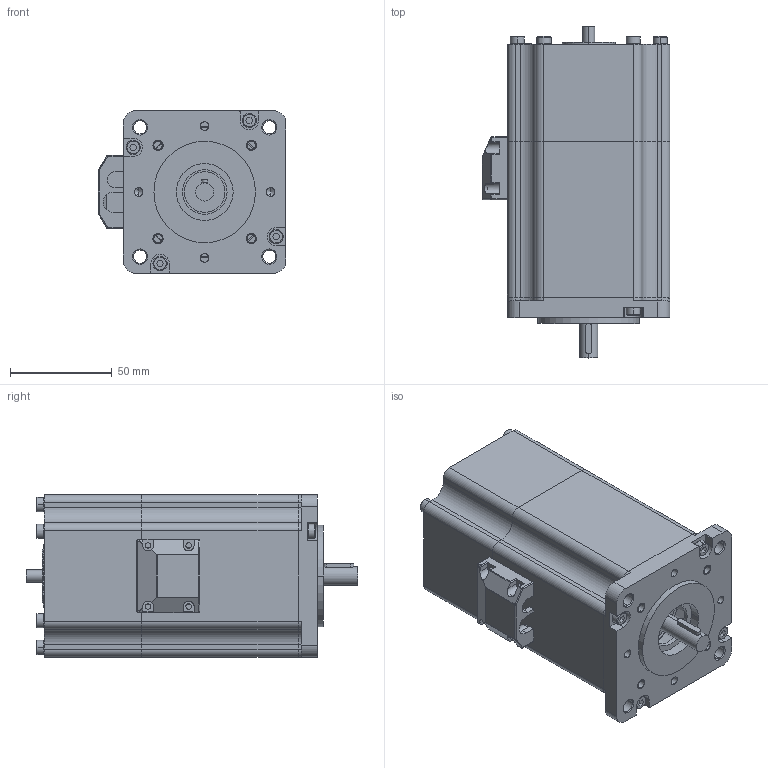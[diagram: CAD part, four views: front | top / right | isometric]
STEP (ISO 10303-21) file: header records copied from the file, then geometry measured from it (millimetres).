
FILE_DESCRIPTION (( 'STEP AP214' ), '1' );
FILE_NAME ('BL070.48.80.STEP', '2021-05-04T15:18:00', ( '' ), ( '' ), 'SwSTEP 2.0', 'SolidWorks 2020', '' );
FILE_SCHEMA (( 'AUTOMOTIVE_DESIGN' ));
Length unit declared in the file: millimetre
Products named in the file (14): 80C.stp; 0000309667.stp; M4X55.stp; SHAFT2GAICHANG.stp; 80FQIANGAI.stp; BL070.48.80; BXW-05-10R.stp; 600201.stp; 1_2_05_130169.stp; 80RGAIHOUGAI.stp; 6004.stp; BL070.48.80.stp; ASM0005_ASM.stp; ROTOR2_ASM.stp
Assembly tree (19 placements, depth 4):
  BL070.48.80
    BL070.48.80.stp
      ASM0005_ASM.stp
        80RGAIHOUGAI.stp
        BXW-05-10R.stp
      ROTOR2_ASM.stp
        SHAFT2GAICHANG.stp
        6004.stp
        600201.stp
      80FQIANGAI.stp
      80C.stp
      1_2_05_130169.stp  x4
      M4X55.stp  x4
      0000309667.stp
Bounding box: 92.5 x 163.5 x 80 mm (x, y, z)
Volume: 231252.8 mm3; surface area: 153290.9 mm2
Topology: 6 solids, 42 shells, 923 faces, 2364 edges, 1534 vertices
Faces by surface type: plane 432, cylinder 358, cone 82, torus 44, sphere 7
Entity records: 27061 total; most frequent: CARTESIAN_POINT 7169, DIRECTION 4044, ORIENTED_EDGE 3952, EDGE_CURVE 2008, AXIS2_PLACEMENT_3D 1449, VERTEX_POINT 1318, LINE 1146, VECTOR 1146
